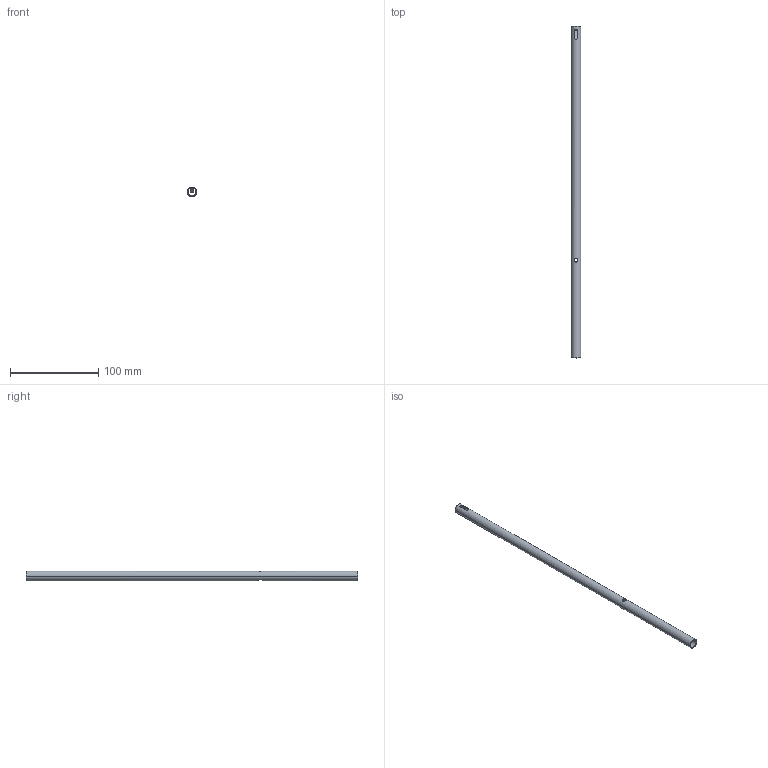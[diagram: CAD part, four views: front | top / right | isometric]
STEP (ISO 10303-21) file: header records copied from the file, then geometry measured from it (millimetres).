
FILE_DESCRIPTION (( 'STEP AP214' ), '1' );
FILE_NAME ('Relingsrohr-Frontstütze_P710701300_400.step', '2010-09-07T12:59:29', ( 'grass' ), ( '' ), 'SwSTEP 2.0', 'SolidWorks 2010', '' );
FILE_SCHEMA (( 'AUTOMOTIVE_DESIGN' ));
Length unit declared in the file: millimetre
Products named in the file (1): Relingsrohr-Frontstütze_P710701300_400
Bounding box: 11 x 376 x 11 mm (x, y, z)
Volume: 11749.8 mm3; surface area: 23648.8 mm2
Topology: 1 solids, 1 shells, 18 faces, 46 edges, 30 vertices
Faces by surface type: plane 10, cylinder 8
Entity records: 850 total; most frequent: CARTESIAN_POINT 351, ORIENTED_EDGE 92, DIRECTION 84, EDGE_CURVE 46, VERTEX_POINT 30, AXIS2_PLACEMENT_3D 29, VECTOR 26, LINE 26
